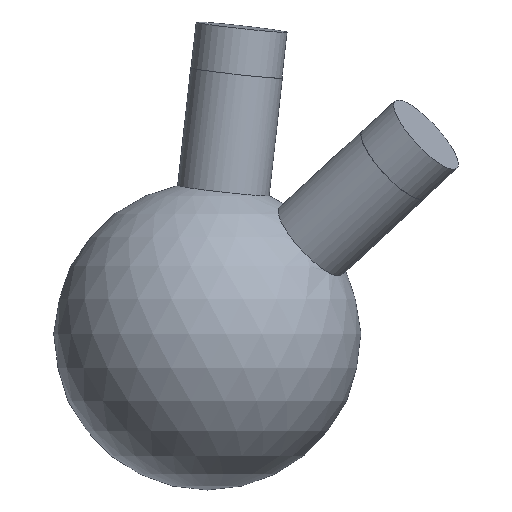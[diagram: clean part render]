
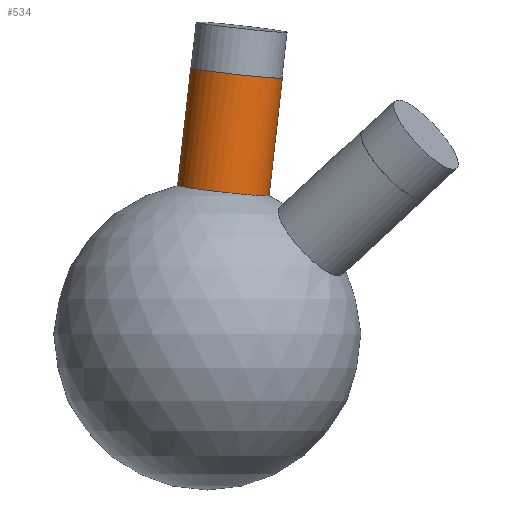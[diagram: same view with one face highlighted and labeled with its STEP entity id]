
A CAD part, left-side view. The second image highlights one B-rep face of the part: STEP entity #534.
In plain terms, the highlighted cylindrical face has radius 6 mm (diameter 12 mm), a full revolution.
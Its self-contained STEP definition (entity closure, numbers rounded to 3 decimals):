
#21 = EDGE_CURVE('',#22,#24,#26,.T.);
#22 = VERTEX_POINT('',#23);
#23 = CARTESIAN_POINT('',(5.015,0.,
    19.361));
#24 = VERTEX_POINT('',#25);
#25 = CARTESIAN_POINT('',(-0.59,3.861,19.615
    ));
#26 = SURFACE_CURVE('',#27,(#32,#64),.PCURVE_S1.);
#27 = CIRCLE('',#28,6.);
#28 = AXIS2_PLACEMENT_3D('',#29,#30,#31);
#29 = CARTESIAN_POINT('',(-0.59,-2.102,
    18.953));
#30 = DIRECTION('',(-0.031,-0.11,0.993)
  );
#31 = DIRECTION('',(0.,-0.994,-0.11)
  );
#32 = PCURVE('',#33,#38);
#33 = SPHERICAL_SURFACE('',#34,20.);
#34 = AXIS2_PLACEMENT_3D('',#35,#36,#37);
#35 = CARTESIAN_POINT('',(0.,0.,0.));
#36 = DIRECTION('',(0.,0.,1.));
#37 = DIRECTION('',(1.,0.,-0.));
#38 = DEFINITIONAL_REPRESENTATION('',(#39),#63);
#39 = B_SPLINE_CURVE_WITH_KNOTS('',8,(#40,#41,#42,#43,#44,#45,#46,#47,
    #48,#49,#50,#51,#52,#53,#54,#55,#56,#57,#58,#59,#60,#61,#62),
  .UNSPECIFIED.,.F.,.F.,(9,7,7,9),(1.935,2.538,
    2.84,3.142),.UNSPECIFIED.);
#40 = CARTESIAN_POINT('',(0.,1.317));
#41 = CARTESIAN_POINT('',(0.084,1.326));
#42 = CARTESIAN_POINT('',(0.171,1.334));
#43 = CARTESIAN_POINT('',(0.262,1.342));
#44 = CARTESIAN_POINT('',(0.358,1.349));
#45 = CARTESIAN_POINT('',(0.457,1.356));
#46 = CARTESIAN_POINT('',(0.562,1.362));
#47 = CARTESIAN_POINT('',(0.67,1.367));
#48 = CARTESIAN_POINT('',(0.838,1.373));
#49 = CARTESIAN_POINT('',(0.895,1.375));
#50 = CARTESIAN_POINT('',(0.953,1.377));
#51 = CARTESIAN_POINT('',(1.011,1.378));
#52 = CARTESIAN_POINT('',(1.07,1.379));
#53 = CARTESIAN_POINT('',(1.13,1.38));
#54 = CARTESIAN_POINT('',(1.19,1.381));
#55 = CARTESIAN_POINT('',(1.31,1.381));
#56 = CARTESIAN_POINT('',(1.37,1.381));
#57 = CARTESIAN_POINT('',(1.429,1.38));
#58 = CARTESIAN_POINT('',(1.489,1.38));
#59 = CARTESIAN_POINT('',(1.548,1.379));
#60 = CARTESIAN_POINT('',(1.607,1.378));
#61 = CARTESIAN_POINT('',(1.665,1.376));
#62 = CARTESIAN_POINT('',(1.722,1.374));
#63 = ( GEOMETRIC_REPRESENTATION_CONTEXT(2) 
PARAMETRIC_REPRESENTATION_CONTEXT() REPRESENTATION_CONTEXT('2D SPACE',''
  ) );
#64 = PCURVE('',#65,#70);
#65 = CYLINDRICAL_SURFACE('',#66,6.);
#66 = AXIS2_PLACEMENT_3D('',#67,#68,#69);
#67 = CARTESIAN_POINT('',(0.,0.,0.));
#68 = DIRECTION('',(-0.031,-0.11,0.993)
  );
#69 = DIRECTION('',(0.,0.994,0.11));
#70 = DEFINITIONAL_REPRESENTATION('',(#71),#75);
#71 = LINE('',#72,#73);
#72 = CARTESIAN_POINT('',(3.142,19.079));
#73 = VECTOR('',#74,1.);
#74 = DIRECTION('',(1.,0.));
#75 = ( GEOMETRIC_REPRESENTATION_CONTEXT(2) 
PARAMETRIC_REPRESENTATION_CONTEXT() REPRESENTATION_CONTEXT('2D SPACE',''
  ) );
#102 = EDGE_CURVE('',#24,#22,#103,.T.);
#103 = SURFACE_CURVE('',#104,(#109,#157),.PCURVE_S1.);
#104 = CIRCLE('',#105,6.);
#105 = AXIS2_PLACEMENT_3D('',#106,#107,#108);
#106 = CARTESIAN_POINT('',(-0.59,-2.102,
    18.953));
#107 = DIRECTION('',(-0.031,-0.11,0.993)
  );
#108 = DIRECTION('',(0.,-0.994,-0.11)
  );
#109 = PCURVE('',#33,#110);
#110 = DEFINITIONAL_REPRESENTATION('',(#111),#156);
#111 = B_SPLINE_CURVE_WITH_KNOTS('',8,(#112,#113,#114,#115,#116,#117,
    #118,#119,#120,#121,#122,#123,#124,#125,#126,#127,#128,#129,#130,
    #131,#132,#133,#134,#135,#136,#137,#138,#139,#140,#141,#142,#143,
    #144,#145,#146,#147,#148,#149,#150,#151,#152,#153,#154,#155),
  .UNSPECIFIED.,.F.,.F.,(9,7,7,7,7,7,9),(3.142,3.776,
    4.331,5.303,6.76,7.489,
    8.218),.UNSPECIFIED.);
#112 = CARTESIAN_POINT('',(1.722,1.374));
#113 = CARTESIAN_POINT('',(1.843,1.371));
#114 = CARTESIAN_POINT('',(1.96,1.366));
#115 = CARTESIAN_POINT('',(2.072,1.36));
#116 = CARTESIAN_POINT('',(2.179,1.353));
#117 = CARTESIAN_POINT('',(2.282,1.346));
#118 = CARTESIAN_POINT('',(2.379,1.338));
#119 = CARTESIAN_POINT('',(2.473,1.329));
#120 = CARTESIAN_POINT('',(2.64,1.313));
#121 = CARTESIAN_POINT('',(2.716,1.305));
#122 = CARTESIAN_POINT('',(2.788,1.297));
#123 = CARTESIAN_POINT('',(2.859,1.289));
#124 = CARTESIAN_POINT('',(2.927,1.281));
#125 = CARTESIAN_POINT('',(2.993,1.273));
#126 = CARTESIAN_POINT('',(3.057,1.265));
#127 = CARTESIAN_POINT('',(3.23,1.244));
#128 = CARTESIAN_POINT('',(3.335,1.231));
#129 = CARTESIAN_POINT('',(3.437,1.219));
#130 = CARTESIAN_POINT('',(3.535,1.207));
#131 = CARTESIAN_POINT('',(3.632,1.197));
#132 = CARTESIAN_POINT('',(3.727,1.187));
#133 = CARTESIAN_POINT('',(3.82,1.179));
#134 = CARTESIAN_POINT('',(4.05,1.162));
#135 = CARTESIAN_POINT('',(4.186,1.154));
#136 = CARTESIAN_POINT('',(4.32,1.15));
#137 = CARTESIAN_POINT('',(4.454,1.148));
#138 = CARTESIAN_POINT('',(4.587,1.15));
#139 = CARTESIAN_POINT('',(4.722,1.155));
#140 = CARTESIAN_POINT('',(4.858,1.164));
#141 = CARTESIAN_POINT('',(5.066,1.18));
#142 = CARTESIAN_POINT('',(5.136,1.186));
#143 = CARTESIAN_POINT('',(5.207,1.193));
#144 = CARTESIAN_POINT('',(5.279,1.201));
#145 = CARTESIAN_POINT('',(5.352,1.209));
#146 = CARTESIAN_POINT('',(5.426,1.217));
#147 = CARTESIAN_POINT('',(5.502,1.227));
#148 = CARTESIAN_POINT('',(5.658,1.245));
#149 = CARTESIAN_POINT('',(5.738,1.255));
#150 = CARTESIAN_POINT('',(5.82,1.266));
#151 = CARTESIAN_POINT('',(5.905,1.276));
#152 = CARTESIAN_POINT('',(5.993,1.286));
#153 = CARTESIAN_POINT('',(6.085,1.297));
#154 = CARTESIAN_POINT('',(6.182,1.307));
#155 = CARTESIAN_POINT('',(6.283,1.317));
#156 = ( GEOMETRIC_REPRESENTATION_CONTEXT(2) 
PARAMETRIC_REPRESENTATION_CONTEXT() REPRESENTATION_CONTEXT('2D SPACE',''
  ) );
#157 = PCURVE('',#65,#158);
#158 = DEFINITIONAL_REPRESENTATION('',(#159),#163);
#159 = LINE('',#160,#161);
#160 = CARTESIAN_POINT('',(-3.142,19.079));
#161 = VECTOR('',#162,1.);
#162 = DIRECTION('',(1.,0.));
#163 = ( GEOMETRIC_REPRESENTATION_CONTEXT(2) 
PARAMETRIC_REPRESENTATION_CONTEXT() REPRESENTATION_CONTEXT('2D SPACE',''
  ) );
#534 = ADVANCED_FACE('',(#535),#65,.T.);
#535 = FACE_BOUND('',#536,.T.);
#536 = EDGE_LOOP('',(#537,#560,#587,#588,#589));
#537 = ORIENTED_EDGE('',*,*,#538,.T.);
#538 = EDGE_CURVE('',#24,#539,#541,.T.);
#539 = VERTEX_POINT('',#540);
#540 = CARTESIAN_POINT('',(-1.067,2.16,34.95
    ));
#541 = SEAM_CURVE('',#542,(#546,#553),.PCURVE_S1.);
#542 = LINE('',#543,#544);
#543 = CARTESIAN_POINT('',(0.,5.963,
    0.662));
#544 = VECTOR('',#545,1.);
#545 = DIRECTION('',(-0.031,-0.11,0.993)
  );
#546 = PCURVE('',#65,#547);
#547 = DEFINITIONAL_REPRESENTATION('',(#548),#552);
#548 = LINE('',#549,#550);
#549 = CARTESIAN_POINT('',(6.283,-0.));
#550 = VECTOR('',#551,1.);
#551 = DIRECTION('',(0.,1.));
#552 = ( GEOMETRIC_REPRESENTATION_CONTEXT(2) 
PARAMETRIC_REPRESENTATION_CONTEXT() REPRESENTATION_CONTEXT('2D SPACE',''
  ) );
#553 = PCURVE('',#65,#554);
#554 = DEFINITIONAL_REPRESENTATION('',(#555),#559);
#555 = LINE('',#556,#557);
#556 = CARTESIAN_POINT('',(0.,-0.));
#557 = VECTOR('',#558,1.);
#558 = DIRECTION('',(0.,1.));
#559 = ( GEOMETRIC_REPRESENTATION_CONTEXT(2) 
PARAMETRIC_REPRESENTATION_CONTEXT() REPRESENTATION_CONTEXT('2D SPACE',''
  ) );
#560 = ORIENTED_EDGE('',*,*,#561,.F.);
#561 = EDGE_CURVE('',#539,#539,#562,.T.);
#562 = SURFACE_CURVE('',#563,(#568,#575),.PCURVE_S1.);
#563 = CIRCLE('',#564,6.);
#564 = AXIS2_PLACEMENT_3D('',#565,#566,#567);
#565 = CARTESIAN_POINT('',(-1.067,-3.804,
    34.288));
#566 = DIRECTION('',(-0.031,-0.11,0.993)
  );
#567 = DIRECTION('',(0.,0.994,0.11)
  );
#568 = PCURVE('',#65,#569);
#569 = DEFINITIONAL_REPRESENTATION('',(#570),#574);
#570 = LINE('',#571,#572);
#571 = CARTESIAN_POINT('',(0.,34.515));
#572 = VECTOR('',#573,1.);
#573 = DIRECTION('',(1.,0.));
#574 = ( GEOMETRIC_REPRESENTATION_CONTEXT(2) 
PARAMETRIC_REPRESENTATION_CONTEXT() REPRESENTATION_CONTEXT('2D SPACE',''
  ) );
#575 = PCURVE('',#576,#581);
#576 = PLANE('',#577);
#577 = AXIS2_PLACEMENT_3D('',#578,#579,#580);
#578 = CARTESIAN_POINT('',(-1.067,-3.804,
    34.288));
#579 = DIRECTION('',(-0.031,-0.11,0.993)
  );
#580 = DIRECTION('',(0.,0.994,0.11)
  );
#581 = DEFINITIONAL_REPRESENTATION('',(#582),#586);
#582 = CIRCLE('',#583,6.);
#583 = AXIS2_PLACEMENT_2D('',#584,#585);
#584 = CARTESIAN_POINT('',(0.,0.));
#585 = DIRECTION('',(1.,0.));
#586 = ( GEOMETRIC_REPRESENTATION_CONTEXT(2) 
PARAMETRIC_REPRESENTATION_CONTEXT() REPRESENTATION_CONTEXT('2D SPACE',''
  ) );
#587 = ORIENTED_EDGE('',*,*,#538,.F.);
#588 = ORIENTED_EDGE('',*,*,#102,.T.);
#589 = ORIENTED_EDGE('',*,*,#21,.T.);
